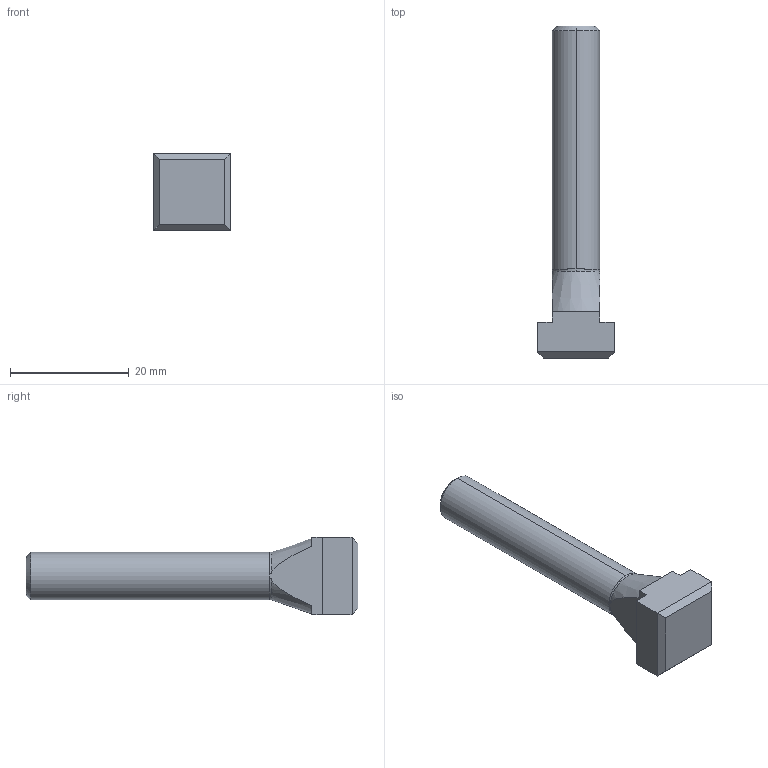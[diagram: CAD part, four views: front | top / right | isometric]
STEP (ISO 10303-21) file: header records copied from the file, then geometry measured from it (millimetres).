
FILE_DESCRIPTION (( 'STEP AP203' ), '1' );
FILE_NAME ('Wiberger-din787_8-m8x50.step', '2016-07-01T13:16:52', ( 'Magnus' ), ( 'Microsoft' ), 'SwSTEP 2.0', 'SolidWorks 2016', '' );
FILE_SCHEMA (( 'CONFIG_CONTROL_DESIGN' ));
Length unit declared in the file: millimetre
Products named in the file (1): Wiberger-din787_8-m8x50
Bounding box: 13 x 56 x 13 mm (x, y, z)
Volume: 3753.6 mm3; surface area: 1899.3 mm2
Topology: 1 solids, 1 shells, 28 faces, 70 edges, 44 vertices
Faces by surface type: plane 18, cone 5, cylinder 5
Entity records: 961 total; most frequent: CARTESIAN_POINT 215, ORIENTED_EDGE 140, DIRECTION 138, EDGE_CURVE 70, AXIS2_PLACEMENT_3D 47, VERTEX_POINT 44, LINE 44, VECTOR 44
